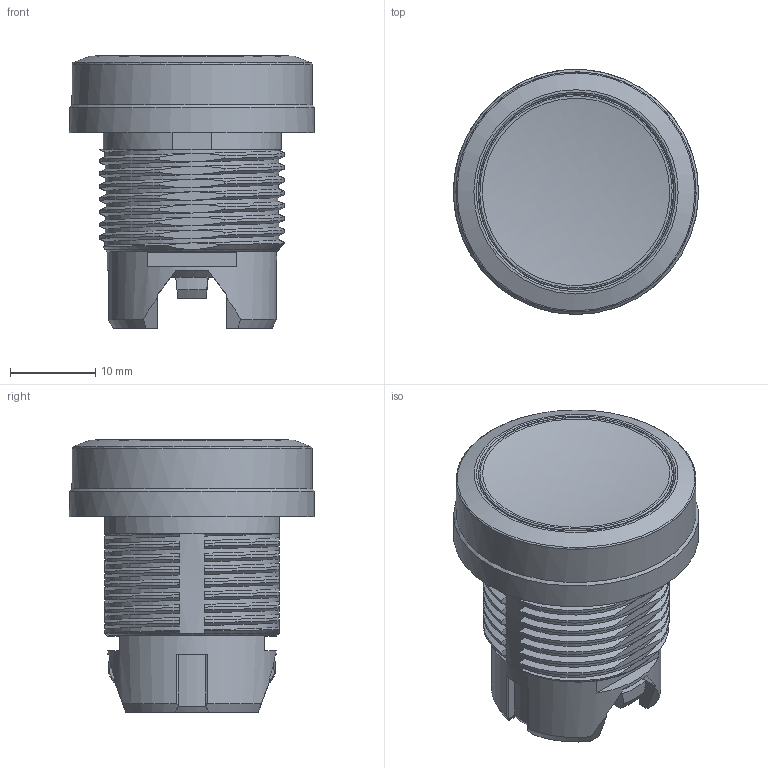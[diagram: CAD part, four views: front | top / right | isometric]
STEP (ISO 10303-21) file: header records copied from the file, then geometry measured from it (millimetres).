
FILE_DESCRIPTION(/* description */ (''),/* implementation_level */ '2;1');
FILE_NAME(/* name */ '_model1.stp',/* time_stamp */ '2024-05-17T18:35:32+08:00',/* author */ (''),/* organization */ (''),/* preprocessor_version */ 'ST-DEVELOPER v16',/* originating_system */ 'SIEMENS PLM Software NX 10.0',/* authorisation */ '');
FILE_SCHEMA (('AUTOMOTIVE_DESIGN { 1 0 10303 214 3 1 1 1 }'));
Products named in the file (1): Admi20CC3240lula
Bounding box: 28.8 x 28.8 x 32 mm (x, y, z)
Volume: 6142.5 mm3; surface area: 9811 mm2
Topology: 1 solids, 2 shells, 377 faces, 988 edges, 634 vertices
Faces by surface type: plane 162, cylinder 94, bspline 65, cone 41, revolution 15
Full cylindrical faces by diameter (mm): 2 x1, 3 x1, 14.8 x2, 15.4 x1, 15.6 x1, 18.4 x3, 18.7 x1, 19.9 x1, 20.5 x1, 22.9 x1, 23 x2, 26.8 x1, 26.85 x2, 28.2 x1, 28.8 x1
Entity records: 91994 total; most frequent: CARTESIAN_POINT 81266, ORIENTED_EDGE 1840, DIRECTION 1422, EDGE_CURVE 920, VERTEX_POINT 613, AXIS2_PLACEMENT_3D 546, EDGE_LOOP 449, PRESENTATION_STYLE_ASSIGNMENT 378
